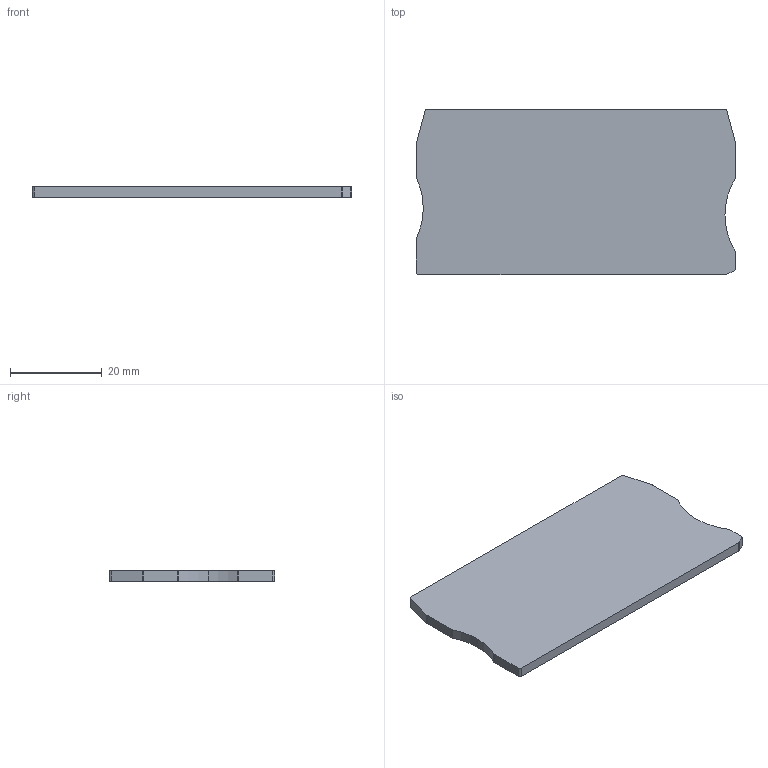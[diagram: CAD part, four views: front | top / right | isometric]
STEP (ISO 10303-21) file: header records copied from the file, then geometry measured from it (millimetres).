
FILE_DESCRIPTION(('SolidDesigner STEP Export'),'2;1');
FILE_NAME('3030433_d_st6.stp','2004-02-04T 7:52:46',(''),(''),'OneSpaceDesigner STEP processor Version: 9.0 (March 2001)for AP214(CD)(Solid Model)','CoCreate OneSpaceDesigner: 11.50A 18-Jul-2002(C) CoCreate Software GmbH','');
FILE_SCHEMA(('AUTOMOTIVE_DESIGN_CC2 {1 2 10303 214 -1 1 5 1}'));
Length unit declared in the file: millimetre
Products named in the file (2): d-_st_6_select
Assembly tree (1 placements, depth 2):
  d-_st_6_select
    d-_st_6_select
Bounding box: 69.5 x 36 x 2.2 mm (x, y, z)
Volume: 5386.7 mm3; surface area: 5353.7 mm2
Topology: 1 solids, 1 shells, 26 faces, 72 edges, 48 vertices
Faces by surface type: cylinder 15, plane 11
Entity records: 1059 total; most frequent: ORIENTED_EDGE 144, DIRECTION 142, CARTESIAN_POINT 140, EDGE_CURVE 72, AXIS2_PLACEMENT_3D 50, VERTEX_POINT 48, VECTOR 42, LINE 42
